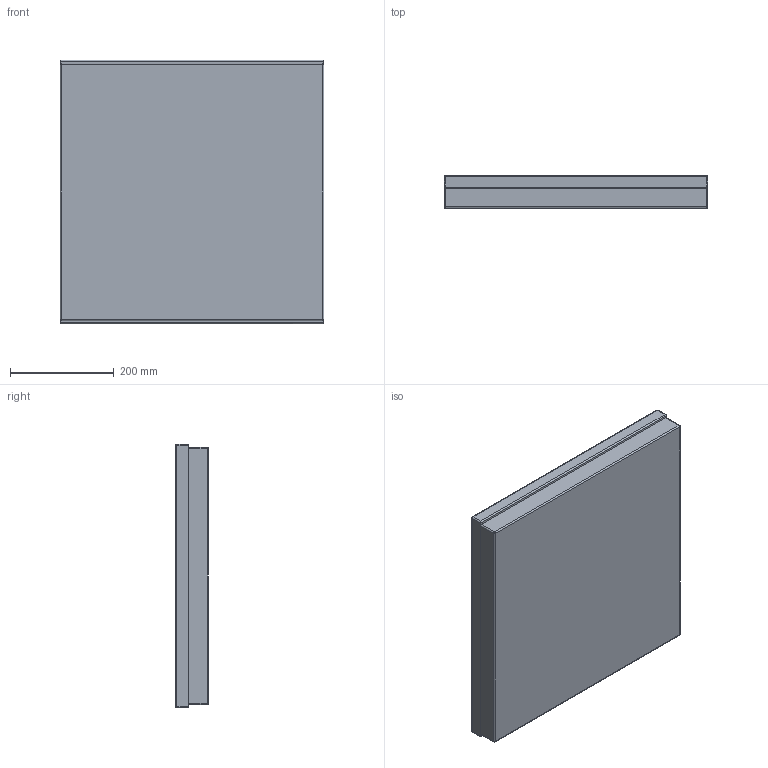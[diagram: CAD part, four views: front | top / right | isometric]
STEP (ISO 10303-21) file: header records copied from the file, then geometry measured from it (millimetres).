
FILE_DESCRIPTION(/* description */ (''),/* implementation_level */ '2;1');
FILE_NAME(/* name */ 'Geo_T2020IT.step',/* time_stamp */ '2026-03-20T13:58:19-07:00',/* author */ (''),/* organization */ (''),/* preprocessor_version */ 'ST-DEVELOPER v20.1',/* originating_system */ 'Autodesk Translation Framework v14.24.0.0',/* authorisation */ '');
FILE_SCHEMA (('AUTOMOTIVE_DESIGN { 1 0 10303 214 3 1 1 }'));
Length unit declared in the file: inch
Products named in the file (1): Geo Tables_\
Bounding box: 508 x 63.5 x 508 mm (x, y, z)
Volume: 16133936.4 mm3; surface area: 1141613.2 mm2
Topology: 2 solids, 2 shells, 38 faces, 74 edges, 40 vertices
Faces by surface type: cylinder 18, plane 12, sphere 8
Entity records: 980 total; most frequent: DIRECTION 184, CARTESIAN_POINT 153, ORIENTED_EDGE 148, EDGE_CURVE 74, AXIS2_PLACEMENT_3D 71, LINE 42, VECTOR 42, VERTEX_POINT 40
